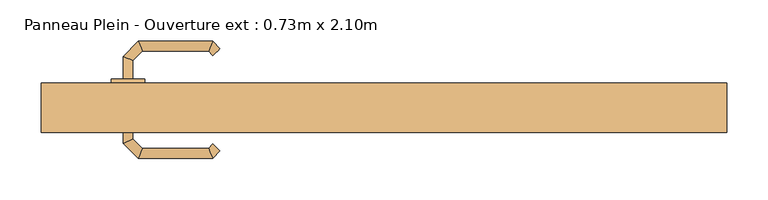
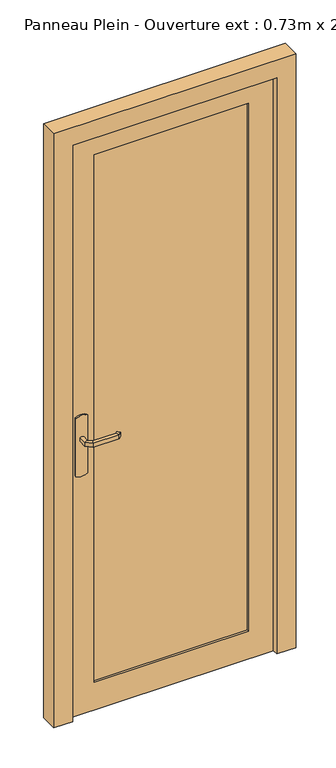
"""IFC4 building model written with IfcOpenShell, lengths in millimetres: door geometry, Panneau Plein - Ouverture ext : 0.73m x 2.10m."""

from ifc_helpers import new_model, si_unit, point, frame, frame_2d, origin, place, context, project, spatial, polyline, circle_curve, ellipse_curve, trimmed, segment, composite_curve, outline, extrude, faceted_brep, source, transform, mapped, element, save
from ifc_brep_helpers import plane_surface, cylinder_surface, advanced_brep


def panneau_plein_ouverture_ext_0_73m_x_2_10m_1ae509ba(model_context):
    return source(origin(), model_context, "Body", "SolidModel", [
        advanced_brep(
        [(-304.0, -108.7935702, 993.0), (-304.0, -108.7935702, 1007.0), (-316.0, -108.7935702, 1007.0), (-316.0, -108.7935702, 993.0), (-304.0, -86.3083657, 993.0), (-304.0, -86.3083657, 1007.0), (-316.0, -81.337803, 1007.0), (-316.0, -81.337803, 993.0), (-292.5147186, -74.8230843, 993.0), (-292.5147186, -74.8230843, 1007.0), (-297.4852814, -62.8230843, 1007.0), (-297.4852814, -62.8230843, 993.0), (-212.4394977, -74.8230843, 993.0), (-212.4394977, -74.8230843, 1007.0), (-207.468935, -62.8230843, 1007.0), (-207.468935, -62.8230843, 993.0), (-207.1257892, -80.1367928, 993.0), (-198.6405078, -71.6515115, 993.0), (-198.6405078, -71.6515115, 1007.0), (-207.1257892, -80.1367928, 1007.0)],
        [
            (0, 1),
            (1, 2, circle_curve(frame((-310.0, -108.7935702, 986.9542278), z_axis=(0.0, -1.0, 0.0), x_axis=(-1.0, 0.0, 0.0)), 20.9244589)),
            (2, 3),
            (3, 0, circle_curve(frame((-310.0, -108.7935702, 1013.0457722), z_axis=(0.0, -1.0, 0.0), x_axis=(-1.0, 0.0, 0.0)), 20.9244589)),
            (0, 4),
            (4, 5),
            (5, 1),
            (5, 6, ellipse_curve(frame((-310.0, -83.8230843, 986.9542278), z_axis=(-0.38268343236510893, -0.9238795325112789, 0.0), x_axis=(0.9238795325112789, -0.3826834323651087, 0.0)), 22.6484711, 20.9244589)),
            (6, 2),
            (6, 7),
            (7, 3),
            (7, 4, ellipse_curve(frame((-310.0, -83.8230843, 1013.0457722), z_axis=(-0.38268343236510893, -0.9238795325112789, 0.0), x_axis=(0.9238795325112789, -0.3826834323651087, 0.0)), 22.6484711, 20.9244589)),
            (4, 8),
            (8, 9),
            (9, 5),
            (9, 10, ellipse_curve(frame((-295.0, -68.8230843, 986.9542278), z_axis=(-0.9238795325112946, -0.38268343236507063, 0.0), x_axis=(0.3826834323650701, -0.9238795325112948, 0.0)), 22.6484711, 20.9244589)),
            (10, 6),
            (10, 11),
            (11, 7),
            (11, 8, ellipse_curve(frame((-295.0, -68.8230843, 1013.0457722), z_axis=(-0.9238795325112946, -0.38268343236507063, 0.0), x_axis=(0.3826834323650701, -0.9238795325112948, 0.0)), 22.6484711, 20.9244589)),
            (8, 12),
            (12, 13),
            (13, 9),
            (13, 14, ellipse_curve(frame((-209.9542163, -68.8230843, 986.9542278), z_axis=(-0.9238795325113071, 0.38268343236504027, 0.0), x_axis=(-0.38268343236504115, -0.9238795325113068, 0.0)), 22.6484711, 20.9244589)),
            (14, 10),
            (14, 15),
            (15, 11),
            (15, 12, ellipse_curve(frame((-209.9542163, -68.8230843, 1013.0457722), z_axis=(-0.9238795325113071, 0.38268343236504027, 0.0), x_axis=(-0.38268343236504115, -0.9238795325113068, 0.0)), 22.6484711, 20.9244589)),
            (16, 17, circle_curve(frame((-202.8831485, -75.8941521, 1013.0457722), z_axis=(0.7071067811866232, -0.7071067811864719, 0.0), x_axis=(0.7071067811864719, 0.7071067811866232, 0.0)), 20.9244589)),
            (17, 18),
            (18, 19, circle_curve(frame((-202.8831485, -75.8941521, 986.9542278), z_axis=(0.7071067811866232, -0.7071067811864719, 0.0), x_axis=(0.7071067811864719, 0.7071067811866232, 0.0)), 20.9244589)),
            (19, 16),
            (12, 16),
            (19, 13),
            (18, 14),
            (17, 15),
        ],
        [
            plane_surface(frame((-319.2195445, -108.7935702, 1000.0), z_axis=(0.0, -1.0, 0.0), x_axis=(0.0, 0.0, 1.0))),
            plane_surface(frame((-304.0, -108.7935702, 993.0), z_axis=(1.0, 0.0, 0.0), x_axis=(0.0, 1.0, 0.0))),
            cylinder_surface(frame((-310.0, -108.7935702, 986.9542278), z_axis=(0.0, -1.0, 0.0), x_axis=(-1.0, 0.0, 0.0)), 20.9244589),
            plane_surface(frame((-316.0, -108.7935702, 1007.0), z_axis=(-1.0, 0.0, 0.0), x_axis=(0.0, 1.0, 0.0))),
            cylinder_surface(frame((-310.0, -108.7935702, 1013.0457722), z_axis=(0.0, -1.0, 0.0), x_axis=(-1.0, 0.0, 0.0)), 20.9244589),
            plane_surface(frame((-304.0, -86.3083657, 993.0), z_axis=(0.707106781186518, -0.707106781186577, 0.0), x_axis=(0.707106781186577, 0.707106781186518, 0.0))),
            cylinder_surface(frame((-310.0, -83.8230843, 986.9542278), z_axis=(-0.7071067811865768, -0.7071067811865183, 0.0), x_axis=(-0.7071067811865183, 0.7071067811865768, 0.0)), 20.9244589),
            plane_surface(frame((-316.0, -81.337803, 1007.0), z_axis=(-0.7071067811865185, 0.7071067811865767, 0.0), x_axis=(0.7071067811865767, 0.7071067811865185, 0.0))),
            cylinder_surface(frame((-310.0, -83.8230843, 1013.0457722), z_axis=(-0.7071067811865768, -0.7071067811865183, 0.0), x_axis=(-0.7071067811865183, 0.7071067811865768, 0.0)), 20.9244589),
            plane_surface(frame((-292.5147186, -74.8230843, 993.0), z_axis=(0.0, -1.0, 0.0), x_axis=(1.0, 0.0, 0.0))),
            cylinder_surface(frame((-295.0, -68.8230843, 986.9542278), z_axis=(-1.0, 0.0, 0.0), x_axis=(0.0, 1.0, 0.0)), 20.9244589),
            plane_surface(frame((-297.4852814, -62.8230843, 1007.0), z_axis=(0.0, 1.0, 0.0), x_axis=(1.0, 0.0, 0.0))),
            cylinder_surface(frame((-295.0, -68.8230843, 1013.0457722), z_axis=(-1.0, 0.0, 0.0), x_axis=(0.0, 1.0, 0.0)), 20.9244589),
            plane_surface(frame((-202.8831485, -75.8941521, 990.7804555), z_axis=(0.7071067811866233, -0.7071067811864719, 0.0), x_axis=(0.7071067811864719, 0.7071067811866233, 0.0))),
            plane_surface(frame((-212.4394977, -74.8230843, 993.0), z_axis=(-0.707106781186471, -0.7071067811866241, 0.0), x_axis=(0.7071067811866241, -0.707106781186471, 0.0))),
            cylinder_surface(frame((-209.9542163, -68.8230843, 986.9542278), z_axis=(-0.7071067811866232, 0.7071067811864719, 0.0), x_axis=(0.7071067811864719, 0.7071067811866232, 0.0)), 20.9244589),
            plane_surface(frame((-207.468935, -62.8230843, 1007.0), z_axis=(0.7071067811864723, 0.7071067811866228, 0.0), x_axis=(0.7071067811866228, -0.7071067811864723, 0.0))),
            cylinder_surface(frame((-209.9542163, -68.8230843, 1013.0457722), z_axis=(-0.7071067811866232, 0.7071067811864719, 0.0), x_axis=(0.7071067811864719, 0.7071067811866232, 0.0)), 20.9244589),
        ],
        [
            (0, [[1, 2, 3, 4]]),
            (1, [[-1, 5, 6, 7]]),
            (2, [[-2, -7, 8, 9]]),
            (3, [[-3, -9, 10, 11]]),
            (4, [[-4, -11, 12, -5]]),
            (5, [[-6, 13, 14, 15]]),
            (6, [[-8, -15, 16, 17]]),
            (7, [[-10, -17, 18, 19]]),
            (8, [[-12, -19, 20, -13]]),
            (9, [[-14, 21, 22, 23]]),
            (10, [[-16, -23, 24, 25]]),
            (11, [[-18, -25, 26, 27]]),
            (12, [[-20, -27, 28, -21]]),
            (13, [[29, 30, 31, 32]]),
            (14, [[-22, 33, -32, 34]]),
            (15, [[-24, -34, -31, 35]]),
            (16, [[-26, -35, -30, 36]]),
            (17, [[-28, -36, -29, -33]]),
        ],
    ),
        advanced_brep(
        [(-316.0, -158.7935702, 1007.0), (-304.0, -158.7935702, 1007.0), (-304.0, -158.7935702, 993.0), (-316.0, -158.7935702, 993.0), (-316.0, -186.4445209, 1007.0), (-304.0, -181.4739582, 1007.0), (-304.0, -181.4739582, 993.0), (-316.0, -186.4445209, 993.0), (-297.62279, -204.8217309, 1007.0), (-292.6522273, -192.8217309, 1007.0), (-292.6522273, -192.8217309, 993.0), (-297.62279, -204.8217309, 993.0), (-207.496078, -204.8217309, 1007.0), (-212.4666408, -192.8217309, 1007.0), (-212.4666408, -192.8217309, 993.0), (-207.496078, -204.8217309, 993.0), (-198.6676509, -195.9933038, 1007.0), (-198.6676509, -195.9933038, 993.0), (-207.1529323, -187.5080224, 993.0), (-207.1529323, -187.5080224, 1007.0)],
        [
            (0, 1, circle_curve(frame((-310.0, -158.7935702, 986.9542278), z_axis=(0.0, 1.0, 0.0), x_axis=(1.0, 0.0, 0.0)), 20.9244589)),
            (1, 2),
            (2, 3, circle_curve(frame((-310.0, -158.7935702, 1013.0457722), z_axis=(0.0, 1.0, 0.0), x_axis=(1.0, 0.0, 0.0)), 20.9244589)),
            (3, 0),
            (0, 4),
            (4, 5, ellipse_curve(frame((-310.0, -183.9592395, 986.9542278), z_axis=(-0.3826834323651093, 0.9238795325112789, 0.0), x_axis=(0.9238795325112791, 0.38268343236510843, 0.0)), 22.6484711, 20.9244589)),
            (5, 1),
            (5, 6),
            (6, 2),
            (6, 7, ellipse_curve(frame((-310.0, -183.9592395, 1013.0457722), z_axis=(-0.3826834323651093, 0.9238795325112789, 0.0), x_axis=(0.9238795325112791, 0.38268343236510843, 0.0)), 22.6484711, 20.9244589)),
            (7, 3),
            (7, 4),
            (4, 8),
            (8, 9, ellipse_curve(frame((-295.1375086, -198.8217309, 986.9542278), z_axis=(-0.9238795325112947, 0.38268343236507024, 0.0), x_axis=(0.3826834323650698, 0.9238795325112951, 0.0)), 22.6484711, 20.9244589)),
            (9, 5),
            (9, 10),
            (10, 6),
            (10, 11, ellipse_curve(frame((-295.1375086, -198.8217309, 1013.0457722), z_axis=(-0.9238795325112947, 0.38268343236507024, 0.0), x_axis=(0.3826834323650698, 0.9238795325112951, 0.0)), 22.6484711, 20.9244589)),
            (11, 7),
            (11, 8),
            (8, 12),
            (12, 13, ellipse_curve(frame((-209.9813594, -198.8217309, 986.9542278), z_axis=(-0.9238795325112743, -0.3826834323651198, 0.0), x_axis=(-0.38268343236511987, 0.9238795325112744, 0.0)), 22.6484711, 20.9244589)),
            (13, 9),
            (13, 14),
            (14, 10),
            (14, 15, ellipse_curve(frame((-209.9813594, -198.8217309, 1013.0457722), z_axis=(-0.9238795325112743, -0.3826834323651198, 0.0), x_axis=(-0.38268343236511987, 0.9238795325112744, 0.0)), 22.6484711, 20.9244589)),
            (15, 11),
            (15, 12),
            (16, 17),
            (17, 18, circle_curve(frame((-202.9102916, -191.7506631, 1013.0457722), z_axis=(0.7071067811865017, 0.7071067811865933, 0.0), x_axis=(-0.7071067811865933, 0.7071067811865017, 0.0)), 20.9244589)),
            (18, 19),
            (19, 16, circle_curve(frame((-202.9102916, -191.7506631, 986.9542278), z_axis=(0.7071067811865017, 0.7071067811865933, 0.0), x_axis=(-0.7071067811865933, 0.7071067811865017, 0.0)), 20.9244589)),
            (12, 16),
            (19, 13),
            (18, 14),
            (17, 15),
        ],
        [
            plane_surface(frame((-319.2195445, -158.7935702, 1000.0), z_axis=(0.0, 1.0, 0.0), x_axis=(0.0, 0.0, -1.0))),
            cylinder_surface(frame((-310.0, -158.7935702, 986.9542278), z_axis=(0.0, 1.0, 0.0), x_axis=(1.0, 0.0, 0.0)), 20.9244589),
            plane_surface(frame((-304.0, -158.7935702, 1007.0), z_axis=(1.0, 0.0, 0.0), x_axis=(0.0, -1.0, 0.0))),
            cylinder_surface(frame((-310.0, -158.7935702, 1013.0457722), z_axis=(0.0, 1.0, 0.0), x_axis=(1.0, 0.0, 0.0)), 20.9244589),
            plane_surface(frame((-316.0, -158.7935702, 993.0), z_axis=(-1.0, 0.0, 0.0), x_axis=(0.0, -1.0, 0.0))),
            cylinder_surface(frame((-310.0, -183.9592395, 986.9542278), z_axis=(-0.7071067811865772, 0.7071067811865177, 0.0), x_axis=(0.7071067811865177, 0.7071067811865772, 0.0)), 20.9244589),
            plane_surface(frame((-304.0, -181.4739582, 1007.0), z_axis=(0.7071067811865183, 0.7071067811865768, 0.0), x_axis=(0.7071067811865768, -0.7071067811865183, 0.0))),
            cylinder_surface(frame((-310.0, -183.9592395, 1013.0457722), z_axis=(-0.7071067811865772, 0.7071067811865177, 0.0), x_axis=(0.7071067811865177, 0.7071067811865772, 0.0)), 20.9244589),
            plane_surface(frame((-316.0, -186.4445209, 993.0), z_axis=(-0.707106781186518, -0.707106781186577, 0.0), x_axis=(0.707106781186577, -0.707106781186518, 0.0))),
            cylinder_surface(frame((-295.1375086, -198.8217309, 986.9542278), z_axis=(-1.0, 0.0, 0.0), x_axis=(0.0, 1.0, 0.0)), 20.9244589),
            plane_surface(frame((-292.6522273, -192.8217309, 1007.0), z_axis=(0.0, 1.0, 0.0), x_axis=(1.0, 0.0, 0.0))),
            cylinder_surface(frame((-295.1375086, -198.8217309, 1013.0457722), z_axis=(-1.0, 0.0, 0.0), x_axis=(0.0, 1.0, 0.0)), 20.9244589),
            plane_surface(frame((-297.62279, -204.8217309, 993.0), z_axis=(0.0, -1.0, 0.0), x_axis=(1.0, 0.0, 0.0))),
            plane_surface(frame((-202.9102916, -191.7506631, 1009.2195445), z_axis=(0.7071067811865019, 0.7071067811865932, 0.0), x_axis=(0.7071067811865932, -0.7071067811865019, 0.0))),
            cylinder_surface(frame((-209.9813594, -198.8217309, 986.9542278), z_axis=(-0.7071067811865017, -0.7071067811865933, 0.0), x_axis=(-0.7071067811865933, 0.7071067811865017, 0.0)), 20.9244589),
            plane_surface(frame((-212.4666408, -192.8217309, 1007.0), z_axis=(-0.7071067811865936, 0.7071067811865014, 0.0), x_axis=(0.7071067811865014, 0.7071067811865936, 0.0))),
            cylinder_surface(frame((-209.9813594, -198.8217309, 1013.0457722), z_axis=(-0.7071067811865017, -0.7071067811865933, 0.0), x_axis=(-0.7071067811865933, 0.7071067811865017, 0.0)), 20.9244589),
            plane_surface(frame((-207.496078, -204.8217309, 993.0), z_axis=(0.707106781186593, -0.7071067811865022, 0.0), x_axis=(0.7071067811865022, 0.707106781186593, 0.0))),
        ],
        [
            (0, [[1, 2, 3, 4]]),
            (1, [[-1, 5, 6, 7]]),
            (2, [[-2, -7, 8, 9]]),
            (3, [[-3, -9, 10, 11]]),
            (4, [[-4, -11, 12, -5]]),
            (5, [[-6, 13, 14, 15]]),
            (6, [[-8, -15, 16, 17]]),
            (7, [[-10, -17, 18, 19]]),
            (8, [[-12, -19, 20, -13]]),
            (9, [[-14, 21, 22, 23]]),
            (10, [[-16, -23, 24, 25]]),
            (11, [[-18, -25, 26, 27]]),
            (12, [[-20, -27, 28, -21]]),
            (13, [[29, 30, 31, 32]]),
            (14, [[-22, 33, -32, 34]]),
            (15, [[-24, -34, -31, 35]]),
            (16, [[-26, -35, -30, 36]]),
            (17, [[-28, -36, -29, -33]]),
        ],
    ),
        extrude(outline(composite_curve([segment(trimmed(circle_curve(frame_2d((1045.3589838, -310.0)), 40.0), [point((1080.0, -290.0))], [point((1080.0, -330.0))], False, "CARTESIAN"), True, "CONTINUOUS"), segment(polyline([(1080.0, -330.0), (870.0, -330.0)]), True, "CONTINUOUS"), segment(trimmed(circle_curve(frame_2d((904.6410162, -310.0)), 40.0), [point((870.0, -330.0))], [point((870.0, -290.0))], False, "CARTESIAN"), True, "CONTINUOUS"), segment(polyline([(870.0, -290.0), (1080.0, -290.0)]), True, "CONTINUOUS")], self_intersect=False)), frame((0.0, -113.7935702, 0.0), z_axis=(0.0, 1.0, 0.0), x_axis=(0.0, 0.0, 1.0)), (0.0, 0.0, 1.0), 5.0),
        extrude(outline(composite_curve([segment(trimmed(circle_curve(frame_2d((904.6410162, -310.0)), 40.0), [point((870.0, -330.0))], [point((870.0, -290.0))], False, "CARTESIAN"), True, "CONTINUOUS"), segment(polyline([(870.0, -290.0), (1080.0, -290.0)]), True, "CONTINUOUS"), segment(trimmed(circle_curve(frame_2d((1045.3589838, -310.0)), 40.0), [point((1080.0, -290.0))], [point((1080.0, -330.0))], False, "CARTESIAN"), True, "CONTINUOUS"), segment(polyline([(1080.0, -330.0), (870.0, -330.0)]), True, "CONTINUOUS")], self_intersect=False)), frame((0.0, -158.7935702, 0.0), z_axis=(0.0, 1.0, 0.0), x_axis=(0.0, 0.0, 1.0)), (0.0, 0.0, 1.0), 5.0),
        faceted_brep([(-415.0, -173.7935702, 0.0), (-415.0, -113.7935702, 0.0), (-365.0, -113.7935702, 0.0), (-365.0, -153.7935702, 0.0), (-350.0, -153.7935702, 0.0), (-350.0, -173.7935702, 0.0), (-415.0, -173.7935702, 2150.0), (-415.0, -113.7935702, 2150.0), (415.0, -113.7935702, 2150.0), (415.0, -113.7935702, 0.0), (365.0, -113.7935702, 0.0), (365.0, -113.7935702, 2100.0), (-365.0, -113.7935702, 2100.0), (-365.0, -153.7935702, 2100.0), (365.0, -153.7935702, 2100.0), (365.0, -153.7935702, 0.0), (350.0, -153.7935702, 0.0), (350.0, -153.7935702, 2085.0), (-350.0, -153.7935702, 2085.0), (-350.0, -173.7935702, 2085.0), (350.0, -173.7935702, 2085.0), (350.0, -173.7935702, 0.0), (415.0, -173.7935702, 0.0), (415.0, -173.7935702, 2150.0)], [[[0, 1, 2, 3, 4, 5]], [[1, 0, 6, 7]], [[2, 1, 7, 8, 9, 10, 11, 12]], [[3, 2, 12, 13]], [[4, 3, 13, 14, 15, 16, 17, 18]], [[5, 4, 18, 19]], [[0, 5, 19, 20, 21, 22, 23, 6]], [[9, 8, 23, 22]], [[10, 9, 22, 21, 16, 15]], [[11, 10, 15, 14]], [[17, 16, 21, 20]], [[7, 6, 23, 8]], [[12, 11, 14, 13]], [[18, 17, 20, 19]]]),
        faceted_brep([(-365.0, -113.7935702, 2100.0), (365.0, -113.7935702, 2100.0), (365.0, -113.7935702, 0.0), (-365.0, -113.7935702, 0.0), (-265.0, -113.7935702, 2010.0), (-265.0, -113.7935702, 100.0), (265.0, -113.7935702, 100.0), (265.0, -113.7935702, 2010.0), (-365.0, -153.7935702, 2100.0), (-365.0, -153.7935702, 0.0), (365.0, -153.7935702, 0.0), (365.0, -153.7935702, 2100.0), (265.0, -153.7935702, 2010.0), (265.0, -153.7935702, 100.0), (-265.0, -153.7935702, 100.0), (-265.0, -153.7935702, 2010.0), (-265.0, -121.7935702, 2010.0), (265.0, -121.7935702, 2010.0), (265.0, -121.7935702, 100.0), (-265.0, -121.7935702, 100.0), (265.0, -145.7935702, 2010.0), (-265.0, -145.7935702, 2010.0), (-265.0, -145.7935702, 100.0), (265.0, -145.7935702, 100.0)], [[[0, 1, 2, 3], [4, 5, 6, 7]], [[8, 9, 10, 11], [12, 13, 14, 15]], [[1, 0, 8, 11]], [[2, 1, 11, 10]], [[3, 2, 10, 9]], [[0, 3, 9, 8]], [[16, 17, 18, 19]], [[16, 19, 5, 4]], [[19, 18, 6, 5]], [[18, 17, 7, 6]], [[17, 16, 4, 7]], [[20, 21, 22, 23]], [[20, 23, 13, 12]], [[23, 22, 14, 13]], [[22, 21, 15, 14]], [[21, 20, 12, 15]]]),
    ])


if __name__ == "__main__":
    model = new_model("IFC4")
    model_context = context("Model", 3, world=origin())
    ifc_project = project(units=[si_unit("LENGTHUNIT", "METRE", prefix="MILLI")], contexts=[model_context])
    site = spatial("IfcSite", under=ifc_project)
    building = spatial("IfcBuilding", under=site)
    placement = place(None, origin())
    panneau_plein_ouverture_ext_0_73m_x_2_10m_shape = panneau_plein_ouverture_ext_0_73m_x_2_10m_1ae509ba(model_context)
    element("IfcDoor", 1, ObjectType="Panneau Plein - Ouverture ext : 0.73m x 2.10m", at=placement, inside=building, context=model_context, shape_type="MappedRepresentation", body=[
        mapped(panneau_plein_ouverture_ext_0_73m_x_2_10m_shape, transform((0.0, 0.0, 0.0), x_axis=(1.0, 0.0, 0.0), y_axis=(0.0, 1.0, 0.0), z_axis=(0.0, 0.0, 1.0))),
    ])
    save(model, "model.ifc")
